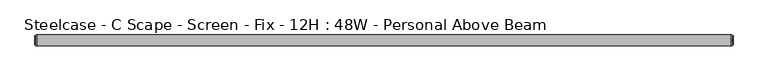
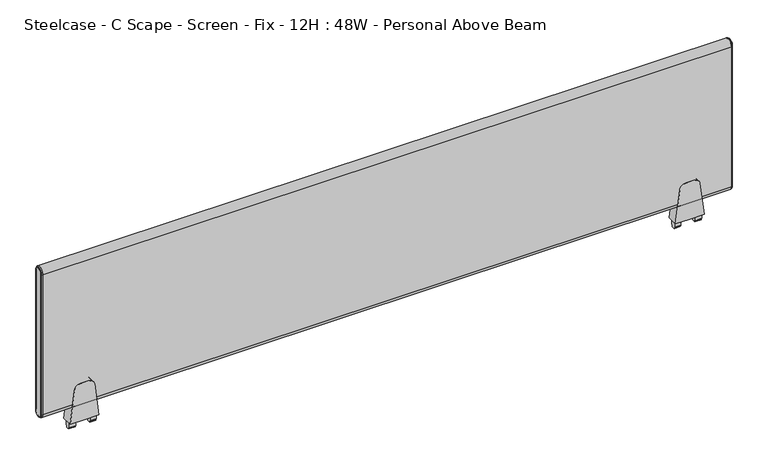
"""IFC4 building model written with IfcOpenShell, lengths in millimetres: furniture geometry, Steelcase - C Scape - Screen - Fix - 12H : 48W - Personal Above Beam."""

from ifc_helpers import new_model, si_unit, point, frame, frame_2d, origin, place, context, project, spatial, polyline, circle_curve, ellipse_curve, trimmed, segment, composite_curve, outline, extrude, source, transform, mapped, element, save
from ifc_brep_helpers import plane_surface, cylinder_surface, revolved_surface, advanced_brep


def steelcase_c_scape_screen_fix_12h_48w_personal_above_beam_81c1465e(model_context):
    return source(origin(), model_context, "Body", "SolidModel", [
        extrude(outline(composite_curve([segment(polyline([(723.811112, 101.4730434), (784.1362421, 94.0661495)]), True, "CONTINUOUS"), segment(trimmed(circle_curve(frame_2d((782.8143718, 83.300233)), 10.8467645), [point((784.1362421, 94.0661495))], [point((793.6611362, 83.300233))], False, "CARTESIAN"), True, "CONTINUOUS"), segment(polyline([(793.6611362, 83.300233), (793.6611362, 76.2001674), (793.6611362, 69.1001018)]), True, "CONTINUOUS"), segment(trimmed(circle_curve(frame_2d((782.8143718, 69.1001018)), 10.8467645), [point((793.6611362, 69.1001018))], [point((784.1362421, 58.3341853))], False, "CARTESIAN"), True, "CONTINUOUS"), segment(polyline([(784.1362421, 58.3341853), (723.811112, 50.9272915), (723.811112, 76.2001674), (723.811112, 101.4730434)]), True, "CONTINUOUS")], self_intersect=False)), frame((0.0, -9.525, 0.0), z_axis=(0.0, 1.0, 0.0), x_axis=(0.0, 0.0, 1.0)), (0.0, 0.0, 1.0), 19.05),
        extrude(outline(polyline([(4.5465975, 723.811112), (4.5465975, 713.9051033), (4.0139265, 713.0186748), (2.9972008, 713.0186748), (2.9972008, 710.7834188), (0.0, 710.692), (-2.9972008, 710.7834188), (-2.9972008, 713.0186748), (-4.0139265, 713.0186748), (-4.5465975, 713.9051033), (-4.5465975, 723.811112), (0.0, 723.811112), (4.5465975, 723.811112)])), frame((88.9267162, 0.0, 0.0), z_axis=(1.0, 0.0, 0.0), x_axis=(0.0, 1.0, 0.0)), (0.0, 0.0, 1.0), 10.7813187),
        extrude(outline(polyline([(4.5465975, 723.811112), (4.5465975, 713.9051033), (4.0139265, 713.0186748), (2.9972008, 713.0186748), (2.9972008, 710.7834188), (0.0, 710.692), (-2.9972008, 710.7834188), (-2.9972008, 713.0186748), (-4.0139265, 713.0186748), (-4.5465975, 713.9051033), (-4.5465975, 723.811112), (0.0, 723.811112), (4.5465975, 723.811112)])), frame((52.6923, 0.0, 0.0), z_axis=(1.0, 0.0, 0.0), x_axis=(0.0, 1.0, 0.0)), (0.0, 0.0, 1.0), 10.7813187),
        extrude(outline(composite_curve([segment(polyline([(723.811112, 1167.5107132), (784.1362421, 1160.1038193)]), True, "CONTINUOUS"), segment(trimmed(circle_curve(frame_2d((782.8143718, 1149.3379028)), 10.8467645), [point((784.1362421, 1160.1038193))], [point((793.6611362, 1149.3379028))], False, "CARTESIAN"), True, "CONTINUOUS"), segment(polyline([(793.6611362, 1149.3379028), (793.6611362, 1142.2378372), (793.6611362, 1135.1377716)]), True, "CONTINUOUS"), segment(trimmed(circle_curve(frame_2d((782.8143718, 1135.1377716)), 10.8467645), [point((793.6611362, 1135.1377716))], [point((784.1362421, 1124.3718551))], False, "CARTESIAN"), True, "CONTINUOUS"), segment(polyline([(784.1362421, 1124.3718551), (723.811112, 1116.9649612), (723.811112, 1142.2378372), (723.811112, 1167.5107132)]), True, "CONTINUOUS")], self_intersect=False)), frame((0.0, -9.525, 0.0), z_axis=(0.0, 1.0, 0.0), x_axis=(0.0, 0.0, 1.0)), (0.0, 0.0, 1.0), 19.05),
        extrude(outline(polyline([(4.5465975, 723.811112), (4.5465975, 713.9051033), (4.0139265, 713.0186748), (2.9972008, 713.0186748), (2.9972008, 710.7834188), (0.0, 710.692), (-2.9972008, 710.7834188), (-2.9972008, 713.0186748), (-4.0139265, 713.0186748), (-4.5465975, 713.9051033), (-4.5465975, 723.811112), (0.0, 723.811112), (4.5465975, 723.811112)])), frame((1154.964386, 0.0, 0.0), z_axis=(1.0, 0.0, 0.0), x_axis=(0.0, 1.0, 0.0)), (0.0, 0.0, 1.0), 10.7813187),
        extrude(outline(polyline([(4.5465975, 723.811112), (4.5465975, 713.9051033), (4.0139265, 713.0186748), (2.9972008, 713.0186748), (2.9972008, 710.7834188), (0.0, 710.692), (-2.9972008, 710.7834188), (-2.9972008, 713.0186748), (-4.0139265, 713.0186748), (-4.5465975, 713.9051033), (-4.5465975, 723.811112), (0.0, 723.811112), (4.5465975, 723.811112)])), frame((1118.7299698, 0.0, 0.0), z_axis=(1.0, 0.0, 0.0), x_axis=(0.0, 1.0, 0.0)), (0.0, 0.0, 1.0), 10.7813187),
        advanced_brep(
        [(1215.6486613, -9.525, 1019.175), (1215.6486613, 9.525, 1019.175), (1215.6486613, 9.525, 758.825), (1215.6486613, -9.525, 758.825), (1218.4426613, 7.4929583, 1019.175), (1218.4426613, -7.4929583, 1019.175), (1218.4426613, -7.4929583, 758.825), (1218.4426613, 7.4929583, 758.825), (1217.9346545, -8.0009651, 1019.175), (1217.9346545, 8.0009651, 1019.175), (1216.6646613, 8.0009651, 1019.175), (1216.6646613, -8.0009651, 1019.175), (1216.6646613, -8.8204932, 1019.175), (1216.6646613, 8.8204932, 1019.175), (1216.6646613, -8.0009651, 758.825), (1217.9346545, -8.0009651, 758.825), (1216.6646613, -8.8204932, 758.825), (1216.6646613, 8.0009651, 758.825), (1217.9346545, 8.0009651, 758.825), (1216.6646613, 8.8204932, 758.825)],
        [
            (0, 1, circle_curve(frame((1215.6486613, 0.0, 1019.175), z_axis=(-1.0, 0.0, 0.0), x_axis=(0.0, 1.0, 0.0)), 9.525)),
            (1, 2),
            (2, 3, circle_curve(frame((1215.6486613, 0.0, 758.825), z_axis=(-1.0, 0.0, 0.0), x_axis=(0.0, -1.0, 0.0)), 9.525)),
            (3, 0),
            (4, 5, circle_curve(frame((1218.4426613, 0.0, 1019.175), z_axis=(1.0, 0.0, 0.0), x_axis=(0.0, 1.0, 0.0)), 7.4929583)),
            (5, 6),
            (6, 7, circle_curve(frame((1218.4426613, 0.0, 758.825), z_axis=(1.0, 0.0, 0.0), x_axis=(0.0, -1.0, 0.0)), 7.4929583)),
            (7, 4),
            (8, 9, circle_curve(frame((1217.9346545, 0.0, 1019.175), z_axis=(-1.0, 0.0, 0.0), x_axis=(0.0, 1.0, 0.0)), 8.0009651)),
            (9, 10),
            (10, 11, circle_curve(frame((1216.6646613, 0.0, 1019.175), z_axis=(1.0, 0.0, 0.0), x_axis=(0.0, 1.0, 0.0)), 8.0009651)),
            (11, 8),
            (8, 5, circle_curve(frame((1217.9346545, -7.4929583, 1019.175), z_axis=(0.0, 0.0, 1.0), x_axis=(0.0, -1.0, 0.0)), 0.5080068)),
            (4, 9, circle_curve(frame((1217.9346545, 7.4929583, 1019.175), z_axis=(0.0, 0.0, 1.0), x_axis=(0.0, 1.0, 0.0)), 0.5080068)),
            (12, 13, circle_curve(frame((1216.6646613, 0.0, 1019.175), z_axis=(-1.0, 0.0, 0.0), x_axis=(0.0, 1.0, 0.0)), 8.8204932)),
            (13, 1, circle_curve(frame((1215.5806211, 8.3420139, 1019.175), z_axis=(0.0, 0.0, 1.0), x_axis=(0.0, 1.0, 0.0)), 1.1849411)),
            (0, 12, circle_curve(frame((1215.5806211, -8.3420139, 1019.175), z_axis=(0.0, 0.0, 1.0), x_axis=(0.0, -1.0, 0.0)), 1.1849411)),
            (11, 14),
            (14, 15),
            (15, 8),
            (15, 6, circle_curve(frame((1217.9346545, -7.4929583, 758.825), z_axis=(0.0, 0.0, 1.0), x_axis=(0.0, -1.0, 0.0)), 0.5080068)),
            (3, 16, circle_curve(frame((1215.5806211, -8.3420139, 758.825), z_axis=(0.0, 0.0, 1.0), x_axis=(0.0, -1.0, 0.0)), 1.1849411)),
            (16, 12),
            (14, 17, circle_curve(frame((1216.6646613, 0.0, 758.825), z_axis=(1.0, 0.0, 0.0), x_axis=(0.0, -1.0, 0.0)), 8.0009651)),
            (17, 18),
            (18, 15, circle_curve(frame((1217.9346545, 0.0, 758.825), z_axis=(-1.0, 0.0, 0.0), x_axis=(0.0, -1.0, 0.0)), 8.0009651)),
            (18, 7, circle_curve(frame((1217.9346545, 7.4929583, 758.825), z_axis=(0.0, 0.0, -1.0), x_axis=(0.0, 1.0, 0.0)), 0.5080068)),
            (2, 19, circle_curve(frame((1215.5806211, 8.3420139, 758.825), z_axis=(0.0, 0.0, -1.0), x_axis=(0.0, 1.0, 0.0)), 1.1849411)),
            (19, 16, circle_curve(frame((1216.6646613, 0.0, 758.825), z_axis=(-1.0, 0.0, 0.0), x_axis=(0.0, -1.0, 0.0)), 8.8204932)),
            (9, 18),
            (17, 10),
            (13, 19),
        ],
        [
            plane_surface(frame((1215.6486613, -6.3509705, 1019.175), z_axis=(-1.0, 0.0, 0.0), x_axis=(0.0, 0.0, 1.0))),
            plane_surface(frame((1218.4426613, -6.3509705, 1019.175), z_axis=(1.0, 0.0, 0.0), x_axis=(0.0, 0.0, -1.0))),
            cylinder_surface(frame((1215.6486613, 0.0, 1019.175), z_axis=(1.0, 0.0, 0.0), x_axis=(0.0, 1.0, 0.0)), 8.0009651),
            revolved_surface(trimmed(ellipse_curve(frame((1217.9346545, 7.4929583, 1019.175), z_axis=(0.0, 0.0, -1.0), x_axis=(0.0, 1.0, 0.0)), 0.5080068, 0.5080068), [point((1217.9346545, 8.0009651, 1019.175))], [point((1218.4426613, 7.4929583, 1019.175))], True, "CARTESIAN"), (1215.6486613, 0.0, 1019.175), (1.0, 0.0, 0.0)),
            revolved_surface(trimmed(ellipse_curve(frame((1215.5806211, 8.3420139, 1019.175), z_axis=(0.0, 0.0, -1.0), x_axis=(0.0, 1.0, 0.0)), 1.1849411, 1.1849411), [point((1215.6486613, 9.525, 1019.175))], [point((1216.6646613, 8.8204932, 1019.175))], True, "CARTESIAN"), (1215.6486613, 0.0, 1019.175), (1.0, 0.0, 0.0)),
            plane_surface(frame((1216.6646613, -8.0009651, 1019.175), z_axis=(0.0, -1.0, 0.0), x_axis=(0.0, 0.0, -1.0))),
            cylinder_surface(frame((1217.9346545, -7.4929583, 1019.175), z_axis=(0.0, 0.0, 1.0), x_axis=(0.0, -1.0, 0.0)), 0.5080068),
            cylinder_surface(frame((1215.5806211, -8.3420139, 1019.175), z_axis=(0.0, 0.0, 1.0), x_axis=(0.0, -1.0, 0.0)), 1.1849411),
            cylinder_surface(frame((1215.6486613, 0.0, 758.825), z_axis=(1.0, 0.0, 0.0), x_axis=(0.0, -1.0, 0.0)), 8.0009651),
            revolved_surface(trimmed(ellipse_curve(frame((1217.9346545, -7.4929583, 758.825), z_axis=(0.0, 0.0, 1.0), x_axis=(0.0, -1.0, 0.0)), 0.5080068, 0.5080068), [point((1217.9346545, -8.0009651, 758.825))], [point((1218.4426613, -7.4929583, 758.825))], True, "CARTESIAN"), (1215.6486613, 0.0, 758.825), (1.0, 0.0, 0.0)),
            revolved_surface(trimmed(ellipse_curve(frame((1215.5806211, -8.3420139, 758.825), z_axis=(0.0, 0.0, 1.0), x_axis=(0.0, -1.0, 0.0)), 1.1849411, 1.1849411), [point((1215.6486613, -9.525, 758.825))], [point((1216.6646613, -8.8204932, 758.825))], True, "CARTESIAN"), (1215.6486613, 0.0, 758.825), (1.0, 0.0, 0.0)),
            plane_surface(frame((1216.6646613, 8.0009651, 758.825), z_axis=(0.0, 1.0, 0.0), x_axis=(0.0, 0.0, 1.0))),
            cylinder_surface(frame((1217.9346545, 7.4929583, 758.825), z_axis=(0.0, 0.0, -1.0), x_axis=(0.0, 1.0, 0.0)), 0.5080068),
            cylinder_surface(frame((1215.5806211, 8.3420139, 758.825), z_axis=(0.0, 0.0, -1.0), x_axis=(0.0, 1.0, 0.0)), 1.1849411),
            plane_surface(frame((1216.6646613, 8.8204932, 758.825), z_axis=(1.0, 0.0, 0.0), x_axis=(0.0, 0.0, 1.0))),
        ],
        [
            (0, [[1, 2, 3, 4]]),
            (1, [[5, 6, 7, 8]]),
            (2, [[9, 10, 11, 12]]),
            (3, [[-9, 13, -5, 14]]),
            (4, [[15, 16, -1, 17]]),
            (5, [[-12, 18, 19, 20]]),
            (6, [[-13, -20, 21, -6]]),
            (7, [[-17, -4, 22, 23]]),
            (8, [[-19, 24, 25, 26]]),
            (9, [[-21, -26, 27, -7]]),
            (10, [[-22, -3, 28, 29]]),
            (11, [[-10, 30, -25, 31]]),
            (12, [[-14, -8, -27, -30]]),
            (13, [[-16, 32, -28, -2]]),
            (14, [[-15, -23, -29, -32], [-11, -31, -24, -18]]),
        ],
    ),
        advanced_brep(
        [(2.7940155, 9.525, 1019.175), (2.7940155, -9.525, 1019.175), (2.7940155, -9.525, 758.825), (2.7940155, 9.525, 758.825), (0.0, -7.4929583, 1019.175), (0.0, 7.4929583, 1019.175), (0.0, 7.4929583, 758.825), (0.0, -7.4929583, 758.825), (1.778, 8.8204932, 1019.175), (1.778, -8.8204932, 1019.175), (0.5080068, -8.0009651, 1019.175), (0.5080068, 8.0009651, 1019.175), (1.778, -8.0009651, 1019.175), (1.778, 8.0009651, 1019.175), (1.778, -8.8204932, 758.825), (0.5080068, -8.0009651, 758.825), (1.778, -8.0009651, 758.825), (1.778, 8.8204932, 758.825), (0.5080068, 8.0009651, 758.825), (1.778, 8.0009651, 758.825)],
        [
            (0, 1, circle_curve(frame((2.7940155, 0.0, 1019.175), z_axis=(1.0, 0.0, 0.0), x_axis=(0.0, 1.0, 0.0)), 9.525)),
            (1, 2),
            (2, 3, circle_curve(frame((2.7940155, 0.0, 758.825), z_axis=(1.0, 0.0, 0.0), x_axis=(0.0, -1.0, 0.0)), 9.525)),
            (3, 0),
            (4, 5, circle_curve(frame((0.0, 0.0, 1019.175), z_axis=(-1.0, 0.0, 0.0), x_axis=(0.0, 1.0, 0.0)), 7.4929583)),
            (5, 6),
            (6, 7, circle_curve(frame((0.0, 0.0, 758.825), z_axis=(-1.0, 0.0, 0.0), x_axis=(0.0, -1.0, 0.0)), 7.4929583)),
            (7, 4),
            (0, 8, circle_curve(frame((2.8620402, 8.3420139, 1019.175), z_axis=(0.0, 0.0, 1.0), x_axis=(0.0, -1.0, 0.0)), 1.1849411)),
            (8, 9, circle_curve(frame((1.778, 0.0, 1019.175), z_axis=(1.0, 0.0, 0.0), x_axis=(0.0, 1.0, 0.0)), 8.8204932)),
            (9, 1, circle_curve(frame((2.8620402, -8.3420139, 1019.175), z_axis=(0.0, 0.0, 1.0), x_axis=(0.0, 1.0, 0.0)), 1.1849411)),
            (10, 11, circle_curve(frame((0.5080068, 0.0, 1019.175), z_axis=(-1.0, 0.0, 0.0), x_axis=(0.0, 1.0, 0.0)), 8.0009651)),
            (11, 5, circle_curve(frame((0.5080068, 7.4929583, 1019.175), z_axis=(0.0, 0.0, 1.0), x_axis=(0.0, -1.0, 0.0)), 0.5080068)),
            (4, 10, circle_curve(frame((0.5080068, -7.4929583, 1019.175), z_axis=(0.0, 0.0, 1.0), x_axis=(0.0, 1.0, 0.0)), 0.5080068)),
            (10, 12),
            (12, 13, circle_curve(frame((1.778, 0.0, 1019.175), z_axis=(-1.0, 0.0, 0.0), x_axis=(0.0, 1.0, 0.0)), 8.0009651)),
            (13, 11),
            (9, 14),
            (14, 2, circle_curve(frame((2.8620402, -8.3420139, 758.825), z_axis=(0.0, 0.0, 1.0), x_axis=(0.0, 1.0, 0.0)), 1.1849411)),
            (7, 15, circle_curve(frame((0.5080068, -7.4929583, 758.825), z_axis=(0.0, 0.0, 1.0), x_axis=(0.0, 1.0, 0.0)), 0.5080068)),
            (15, 10),
            (15, 16),
            (16, 12),
            (14, 17, circle_curve(frame((1.778, 0.0, 758.825), z_axis=(1.0, 0.0, 0.0), x_axis=(0.0, -1.0, 0.0)), 8.8204932)),
            (17, 3, circle_curve(frame((2.8620402, 8.3420139, 758.825), z_axis=(0.0, 0.0, -1.0), x_axis=(0.0, -1.0, 0.0)), 1.1849411)),
            (6, 18, circle_curve(frame((0.5080068, 7.4929583, 758.825), z_axis=(0.0, 0.0, -1.0), x_axis=(0.0, -1.0, 0.0)), 0.5080068)),
            (18, 15, circle_curve(frame((0.5080068, 0.0, 758.825), z_axis=(-1.0, 0.0, 0.0), x_axis=(0.0, -1.0, 0.0)), 8.0009651)),
            (18, 19),
            (19, 16, circle_curve(frame((1.778, 0.0, 758.825), z_axis=(-1.0, 0.0, 0.0), x_axis=(0.0, -1.0, 0.0)), 8.0009651)),
            (8, 17),
            (19, 13),
            (11, 18),
        ],
        [
            plane_surface(frame((2.7940155, -6.3509705, 1019.175), z_axis=(1.0, 0.0, 0.0), x_axis=(0.0, 0.0, -1.0))),
            plane_surface(frame((0.0, -6.3509705, 1019.175), z_axis=(-1.0, 0.0, 0.0), x_axis=(0.0, 0.0, 1.0))),
            revolved_surface(trimmed(ellipse_curve(frame((2.8620402, 8.3420139, 1019.175), z_axis=(0.0, 0.0, -1.0), x_axis=(0.0, -1.0, 0.0)), 1.1849411, 1.1849411), [point((1.778, 8.8204932, 1019.175))], [point((2.794, 9.525, 1019.175))], True, "CARTESIAN"), (2.794, 0.0, 1019.175), (1.0, 0.0, 0.0)),
            revolved_surface(trimmed(ellipse_curve(frame((0.5080068, 7.4929583, 1019.175), z_axis=(0.0, 0.0, -1.0), x_axis=(0.0, -1.0, 0.0)), 0.5080068, 0.5080068), [point((0.0, 7.4929583, 1019.175))], [point((0.5080068, 8.0009651, 1019.175))], True, "CARTESIAN"), (2.794, 0.0, 1019.175), (1.0, 0.0, 0.0)),
            cylinder_surface(frame((2.794, 0.0, 1019.175), z_axis=(1.0, 0.0, 0.0), x_axis=(0.0, 1.0, 0.0)), 8.0009651),
            cylinder_surface(frame((2.8620402, -8.3420139, 1019.175), z_axis=(0.0, 0.0, 1.0), x_axis=(0.0, 1.0, 0.0)), 1.1849411),
            cylinder_surface(frame((0.5080068, -7.4929583, 1019.175), z_axis=(0.0, 0.0, 1.0), x_axis=(0.0, 1.0, 0.0)), 0.5080068),
            plane_surface(frame((0.5080068, -8.0009651, 1019.175), z_axis=(0.0, -1.0, 0.0), x_axis=(0.0, 0.0, -1.0))),
            revolved_surface(trimmed(ellipse_curve(frame((2.8620402, -8.3420139, 758.825), z_axis=(0.0, 0.0, 1.0), x_axis=(0.0, 1.0, 0.0)), 1.1849411, 1.1849411), [point((1.778, -8.8204932, 758.825))], [point((2.794, -9.525, 758.825))], True, "CARTESIAN"), (2.794, 0.0, 758.825), (1.0, 0.0, 0.0)),
            revolved_surface(trimmed(ellipse_curve(frame((0.5080068, -7.4929583, 758.825), z_axis=(0.0, 0.0, 1.0), x_axis=(0.0, 1.0, 0.0)), 0.5080068, 0.5080068), [point((0.0, -7.4929583, 758.825))], [point((0.5080068, -8.0009651, 758.825))], True, "CARTESIAN"), (2.794, 0.0, 758.825), (1.0, 0.0, 0.0)),
            cylinder_surface(frame((2.794, 0.0, 758.825), z_axis=(1.0, 0.0, 0.0), x_axis=(0.0, -1.0, 0.0)), 8.0009651),
            plane_surface(frame((1.778, 8.0009651, 758.825), z_axis=(-1.0, 0.0, 0.0), x_axis=(0.0, 0.0, 1.0))),
            cylinder_surface(frame((2.8620402, 8.3420139, 758.825), z_axis=(0.0, 0.0, -1.0), x_axis=(0.0, -1.0, 0.0)), 1.1849411),
            cylinder_surface(frame((0.5080068, 7.4929583, 758.825), z_axis=(0.0, 0.0, -1.0), x_axis=(0.0, -1.0, 0.0)), 0.5080068),
            plane_surface(frame((0.5080068, 8.0009651, 758.825), z_axis=(0.0, 1.0, 0.0), x_axis=(0.0, 0.0, 1.0))),
        ],
        [
            (0, [[1, 2, 3, 4]]),
            (1, [[5, 6, 7, 8]]),
            (2, [[-1, 9, 10, 11]]),
            (3, [[12, 13, -5, 14]]),
            (4, [[-12, 15, 16, 17]]),
            (5, [[-11, 18, 19, -2]]),
            (6, [[-14, -8, 20, 21]]),
            (7, [[-15, -21, 22, 23]]),
            (8, [[-19, 24, 25, -3]]),
            (9, [[-20, -7, 26, 27]]),
            (10, [[-22, -27, 28, 29]]),
            (11, [[-10, 30, -24, -18], [-16, -23, -29, 31]]),
            (12, [[-9, -4, -25, -30]]),
            (13, [[-13, 32, -26, -6]]),
            (14, [[-17, -31, -28, -32]]),
        ],
    ),
        extrude(outline(composite_curve([segment(trimmed(circle_curve(frame_2d((0.0, 1019.175)), 9.525), [point((-9.525, 1019.175))], [point((9.525, 1019.175))], False, "CARTESIAN"), True, "CONTINUOUS"), segment(polyline([(9.525, 1019.175), (9.525, 758.825)]), True, "CONTINUOUS"), segment(trimmed(circle_curve(frame_2d((0.0, 758.825)), 9.525), [point((9.525, 758.825))], [point((-9.525, 758.825))], False, "CARTESIAN"), True, "CONTINUOUS"), segment(polyline([(-9.525, 758.825), (-9.525, 1019.175)]), True, "CONTINUOUS")], self_intersect=False)), frame((2.794, 0.0, 0.0), z_axis=(1.0, 0.0, 0.0), x_axis=(0.0, 1.0, 0.0)), (0.0, 0.0, 1.0), 1212.8546613),
    ])


if __name__ == "__main__":
    model = new_model("IFC4")
    model_context = context("Model", 3, world=origin())
    ifc_project = project(units=[si_unit("LENGTHUNIT", "METRE", prefix="MILLI")], contexts=[model_context])
    site = spatial("IfcSite", under=ifc_project)
    building = spatial("IfcBuilding", under=site)
    placement = place(None, origin())
    steelcase_c_scape_screen_fix_12h_48w_personal_above_beam_shape = steelcase_c_scape_screen_fix_12h_48w_personal_above_beam_81c1465e(model_context)
    element("IfcFurniture", 1, ObjectType="Steelcase - C Scape - Screen - Fix - 12H : 48W - Personal Above Beam", at=placement, inside=building, context=model_context, shape_type="MappedRepresentation", body=[
        mapped(steelcase_c_scape_screen_fix_12h_48w_personal_above_beam_shape, transform((0.0, 0.0, 0.0), x_axis=(1.0, 0.0, 0.0), y_axis=(0.0, 1.0, 0.0), z_axis=(0.0, 0.0, 1.0))),
    ])
    save(model, "model.ifc")
